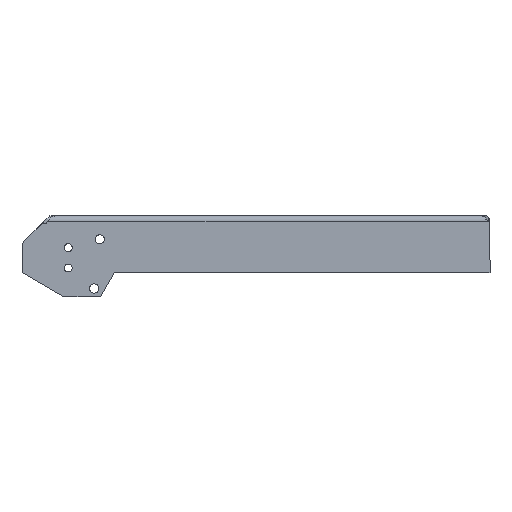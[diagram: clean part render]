
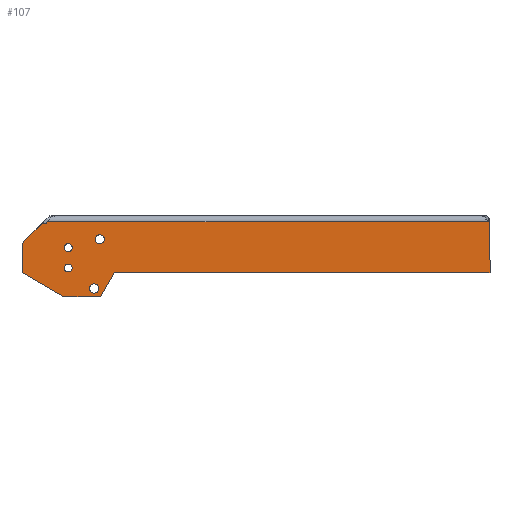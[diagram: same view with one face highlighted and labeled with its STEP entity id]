
A CAD part, left-side view. The second image highlights one B-rep face of the part: STEP entity #107.
In plain terms, the highlighted planar face has unit normal (-1, 0, 0).
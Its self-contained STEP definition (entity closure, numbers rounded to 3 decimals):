
#2 = DIRECTION ( 'NONE',  ( 0., 0.707, -0.707 ) ) ;
#6 = EDGE_LOOP ( 'NONE', ( #3396 ) ) ;
#14 = FACE_BOUND ( 'NONE', #3387, .T. ) ;
#36 = VERTEX_POINT ( 'NONE', #777 ) ;
#54 = DIRECTION ( 'NONE',  ( 0., 0., -1. ) ) ;
#69 = LINE ( 'NONE', #663, #1351 ) ;
#77 = EDGE_CURVE ( 'NONE', #412, #2721, #530, .T. ) ;
#83 = AXIS2_PLACEMENT_3D ( 'NONE', #3501, #174, #192 ) ;
#93 = VERTEX_POINT ( 'NONE', #2493 ) ;
#107 = ADVANCED_FACE ( 'NONE', ( #1917, #14, #2755, #1092, #3288 ), #2218, .F. ) ;
#133 = CIRCLE ( 'NONE', #3354, 2.5 ) ;
#158 = DIRECTION ( 'NONE',  ( 1., 0., 0. ) ) ;
#167 = EDGE_CURVE ( 'NONE', #1497, #1186, #1149, .T. ) ;
#172 = EDGE_CURVE ( 'NONE', #1647, #1911, #2941, .T. ) ;
#174 = DIRECTION ( 'NONE',  ( 1., 0., 0. ) ) ;
#189 = CIRCLE ( 'NONE', #2275, 1. ) ;
#192 = DIRECTION ( 'NONE',  ( 0., 0., -1. ) ) ;
#201 = CIRCLE ( 'NONE', #3416, 2.5 ) ;
#226 = EDGE_CURVE ( 'NONE', #1994, #2721, #1985, .T. ) ;
#254 = VECTOR ( 'NONE', #2, 1000. ) ;
#304 = CARTESIAN_POINT ( 'NONE',  ( -200., 92.323, -44. ) ) ;
#362 = CARTESIAN_POINT ( 'NONE',  ( -200., 92.323, -44. ) ) ;
#370 = EDGE_LOOP ( 'NONE', ( #2122 ) ) ;
#412 = VERTEX_POINT ( 'NONE', #2571 ) ;
#469 = EDGE_LOOP ( 'NONE', ( #1008, #2498, #1583, #2094, #679, #1456, #683, #3256, #1439, #2366, #3400, #1274 ) ) ;
#477 = DIRECTION ( 'NONE',  ( 0., -0.866, -0.5 ) ) ;
#499 = CARTESIAN_POINT ( 'NONE',  ( -200., 134.817, -16.617 ) ) ;
#530 = LINE ( 'NONE', #1888, #1676 ) ;
#631 = EDGE_CURVE ( 'NONE', #1839, #1839, #2744, .T. ) ;
#651 = LINE ( 'NONE', #3107, #2054 ) ;
#656 = CIRCLE ( 'NONE', #83, 2.15 ) ;
#663 = CARTESIAN_POINT ( 'NONE',  ( -200., 134.817, 0. ) ) ;
#679 = ORIENTED_EDGE ( 'NONE', *, *, #172, .T. ) ;
#683 = ORIENTED_EDGE ( 'NONE', *, *, #903, .T. ) ;
#724 = VERTEX_POINT ( 'NONE', #3345 ) ;
#730 = LINE ( 'NONE', #2932, #1115 ) ;
#741 = DIRECTION ( 'NONE',  ( 1., 0., 0. ) ) ;
#758 = EDGE_CURVE ( 'NONE', #1911, #93, #69, .T. ) ;
#777 = CARTESIAN_POINT ( 'NONE',  ( -200., 123.425, -3.775 ) ) ;
#787 = CARTESIAN_POINT ( 'NONE',  ( -200., 95.873, -42.053 ) ) ;
#865 = CARTESIAN_POINT ( 'NONE',  ( -200., 95.873, -39.553 ) ) ;
#874 = LINE ( 'NONE', #2296, #3468 ) ;
#900 = DIRECTION ( 'NONE',  ( 0., 0., -1. ) ) ;
#903 = EDGE_CURVE ( 'NONE', #93, #3426, #2979, .T. ) ;
#922 = VECTOR ( 'NONE', #2565, 1000. ) ;
#960 = EDGE_CURVE ( 'NONE', #1066, #1066, #656, .T. ) ;
#1008 = ORIENTED_EDGE ( 'NONE', *, *, #226, .F. ) ;
#1025 = CARTESIAN_POINT ( 'NONE',  ( -200., 92.817, -13. ) ) ;
#1066 = VERTEX_POINT ( 'NONE', #2446 ) ;
#1092 = FACE_BOUND ( 'NONE', #2659, .T. ) ;
#1115 = VECTOR ( 'NONE', #1611, 1000. ) ;
#1140 = EDGE_CURVE ( 'NONE', #3027, #36, #189, .T. ) ;
#1149 = LINE ( 'NONE', #304, #922 ) ;
#1176 = VECTOR ( 'NONE', #477, 1000. ) ;
#1186 = VERTEX_POINT ( 'NONE', #2033 ) ;
#1274 = ORIENTED_EDGE ( 'NONE', *, *, #77, .T. ) ;
#1319 = CARTESIAN_POINT ( 'NONE',  ( -200., 0., 0. ) ) ;
#1351 = VECTOR ( 'NONE', #900, 1000. ) ;
#1411 = DIRECTION ( 'NONE',  ( 0., 0., -1. ) ) ;
#1437 = CARTESIAN_POINT ( 'NONE',  ( -200., 122.443, -3.588 ) ) ;
#1439 = ORIENTED_EDGE ( 'NONE', *, *, #167, .T. ) ;
#1440 = DIRECTION ( 'NONE',  ( 0., 0., -1. ) ) ;
#1450 = EDGE_CURVE ( 'NONE', #3426, #1497, #874, .T. ) ;
#1456 = ORIENTED_EDGE ( 'NONE', *, *, #758, .T. ) ;
#1497 = VERTEX_POINT ( 'NONE', #362 ) ;
#1500 = AXIS2_PLACEMENT_3D ( 'NONE', #1956, #3047, #1411 ) ;
#1560 = AXIS2_PLACEMENT_3D ( 'NONE', #1319, #3084, #1440 ) ;
#1583 = ORIENTED_EDGE ( 'NONE', *, *, #1140, .T. ) ;
#1602 = CARTESIAN_POINT ( 'NONE',  ( -200., 123.15, -3.5 ) ) ;
#1611 = DIRECTION ( 'NONE',  ( 0., -1., 0. ) ) ;
#1638 = CARTESIAN_POINT ( 'NONE',  ( -200., 120.941, -3.5 ) ) ;
#1647 = VERTEX_POINT ( 'NONE', #1868 ) ;
#1676 = VECTOR ( 'NONE', #2995, 1000. ) ;
#1678 = EDGE_CURVE ( 'NONE', #3531, #3531, #133, .T. ) ;
#1711 = CARTESIAN_POINT ( 'NONE',  ( -200., -118.2, -3.5 ) ) ;
#1742 = DIRECTION ( 'NONE',  ( 1., 0., 0. ) ) ;
#1817 = AXIS2_PLACEMENT_3D ( 'NONE', #3210, #741, #2234 ) ;
#1839 = VERTEX_POINT ( 'NONE', #2709 ) ;
#1868 = CARTESIAN_POINT ( 'NONE',  ( -200., 133.792, -14.142 ) ) ;
#1888 = CARTESIAN_POINT ( 'NONE',  ( -200., 0.38, 114.32 ) ) ;
#1911 = VERTEX_POINT ( 'NONE', #499 ) ;
#1917 = FACE_BOUND ( 'NONE', #370, .T. ) ;
#1956 = CARTESIAN_POINT ( 'NONE',  ( -200., 131.317, -16.617 ) ) ;
#1959 = DIRECTION ( 'NONE',  ( 1., 0., 0. ) ) ;
#1985 = LINE ( 'NONE', #1711, #2954 ) ;
#1994 = VERTEX_POINT ( 'NONE', #1638 ) ;
#2017 = DIRECTION ( 'NONE',  ( 0., 0., -1. ) ) ;
#2033 = CARTESIAN_POINT ( 'NONE',  ( -200., 84.817, -31. ) ) ;
#2042 = VECTOR ( 'NONE', #2428, 1000. ) ;
#2054 = VECTOR ( 'NONE', #2574, 1000. ) ;
#2094 = ORIENTED_EDGE ( 'NONE', *, *, #3359, .T. ) ;
#2104 = LINE ( 'NONE', #3214, #2042 ) ;
#2122 = ORIENTED_EDGE ( 'NONE', *, *, #960, .T. ) ;
#2218 = PLANE ( 'NONE',  #1560 ) ;
#2234 = DIRECTION ( 'NONE',  ( 0., 0., -1. ) ) ;
#2275 = AXIS2_PLACEMENT_3D ( 'NONE', #1437, #1742, #2017 ) ;
#2296 = CARTESIAN_POINT ( 'NONE',  ( -200., 112.3, -44. ) ) ;
#2342 = CARTESIAN_POINT ( 'NONE',  ( -200., 134.817, -31. ) ) ;
#2346 = DIRECTION ( 'NONE',  ( 0., 0., -1. ) ) ;
#2366 = ORIENTED_EDGE ( 'NONE', *, *, #2419, .T. ) ;
#2401 = EDGE_CURVE ( 'NONE', #1994, #3027, #2104, .T. ) ;
#2419 = EDGE_CURVE ( 'NONE', #1186, #724, #730, .T. ) ;
#2428 = DIRECTION ( 'NONE',  ( 0., 0.707, -0.707 ) ) ;
#2446 = CARTESIAN_POINT ( 'NONE',  ( -200., 109.817, -30.65 ) ) ;
#2493 = CARTESIAN_POINT ( 'NONE',  ( -200., 134.817, -31. ) ) ;
#2498 = ORIENTED_EDGE ( 'NONE', *, *, #2401, .T. ) ;
#2565 = DIRECTION ( 'NONE',  ( 0., -0.5, 0.866 ) ) ;
#2571 = CARTESIAN_POINT ( 'NONE',  ( -200., -118.2, -4.259 ) ) ;
#2574 = DIRECTION ( 'NONE',  ( 0., 0., -1. ) ) ;
#2582 = CARTESIAN_POINT ( 'NONE',  ( -200., 121.736, -4.295 ) ) ;
#2591 = DIRECTION ( 'NONE',  ( 0., -1., 0. ) ) ;
#2659 = EDGE_LOOP ( 'NONE', ( #3021 ) ) ;
#2705 = EDGE_CURVE ( 'NONE', #2971, #2971, #201, .T. ) ;
#2709 = CARTESIAN_POINT ( 'NONE',  ( -200., 109.817, -19.65 ) ) ;
#2721 = VERTEX_POINT ( 'NONE', #3505 ) ;
#2744 = CIRCLE ( 'NONE', #1817, 2.15 ) ;
#2755 = FACE_OUTER_BOUND ( 'NONE', #469, .T. ) ;
#2820 = DIRECTION ( 'NONE',  ( 0., -1., 0. ) ) ;
#2896 = ORIENTED_EDGE ( 'NONE', *, *, #631, .T. ) ;
#2932 = CARTESIAN_POINT ( 'NONE',  ( -200., 0., -31. ) ) ;
#2941 = CIRCLE ( 'NONE', #1500, 3.5 ) ;
#2954 = VECTOR ( 'NONE', #2820, 1000. ) ;
#2971 = VERTEX_POINT ( 'NONE', #3197 ) ;
#2979 = LINE ( 'NONE', #2342, #1176 ) ;
#2995 = DIRECTION ( 'NONE',  ( 0., 0.707, 0.707 ) ) ;
#3021 = ORIENTED_EDGE ( 'NONE', *, *, #2705, .T. ) ;
#3027 = VERTEX_POINT ( 'NONE', #2582 ) ;
#3047 = DIRECTION ( 'NONE',  ( -1., 0., 0. ) ) ;
#3084 = DIRECTION ( 'NONE',  ( 1., 0., 0. ) ) ;
#3107 = CARTESIAN_POINT ( 'NONE',  ( -200., -118.2, -3.5 ) ) ;
#3177 = CARTESIAN_POINT ( 'NONE',  ( -200., 112.3, -44. ) ) ;
#3197 = CARTESIAN_POINT ( 'NONE',  ( -200., 92.817, -15.5 ) ) ;
#3210 = CARTESIAN_POINT ( 'NONE',  ( -200., 109.817, -17.5 ) ) ;
#3214 = CARTESIAN_POINT ( 'NONE',  ( -200., 58.72, 58.72 ) ) ;
#3235 = LINE ( 'NONE', #1602, #254 ) ;
#3256 = ORIENTED_EDGE ( 'NONE', *, *, #1450, .T. ) ;
#3288 = FACE_BOUND ( 'NONE', #6, .T. ) ;
#3345 = CARTESIAN_POINT ( 'NONE',  ( -200., -118.2, -31. ) ) ;
#3354 = AXIS2_PLACEMENT_3D ( 'NONE', #865, #1959, #54 ) ;
#3359 = EDGE_CURVE ( 'NONE', #36, #1647, #3235, .T. ) ;
#3387 = EDGE_LOOP ( 'NONE', ( #2896 ) ) ;
#3396 = ORIENTED_EDGE ( 'NONE', *, *, #1678, .T. ) ;
#3400 = ORIENTED_EDGE ( 'NONE', *, *, #3424, .F. ) ;
#3416 = AXIS2_PLACEMENT_3D ( 'NONE', #1025, #158, #2346 ) ;
#3424 = EDGE_CURVE ( 'NONE', #412, #724, #651, .T. ) ;
#3426 = VERTEX_POINT ( 'NONE', #3177 ) ;
#3468 = VECTOR ( 'NONE', #2591, 1000. ) ;
#3501 = CARTESIAN_POINT ( 'NONE',  ( -200., 109.817, -28.5 ) ) ;
#3505 = CARTESIAN_POINT ( 'NONE',  ( -200., -117.441, -3.5 ) ) ;
#3531 = VERTEX_POINT ( 'NONE', #787 ) ;
